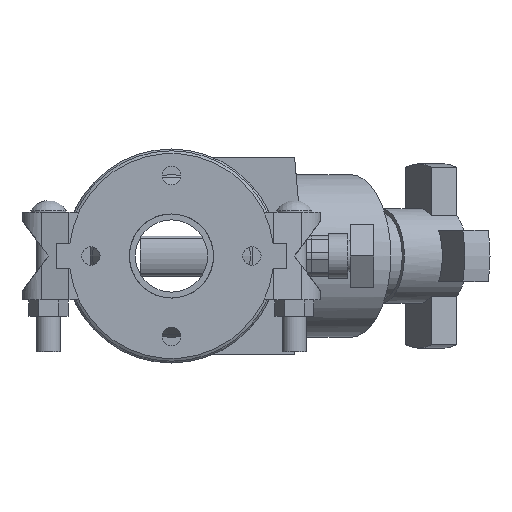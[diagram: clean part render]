
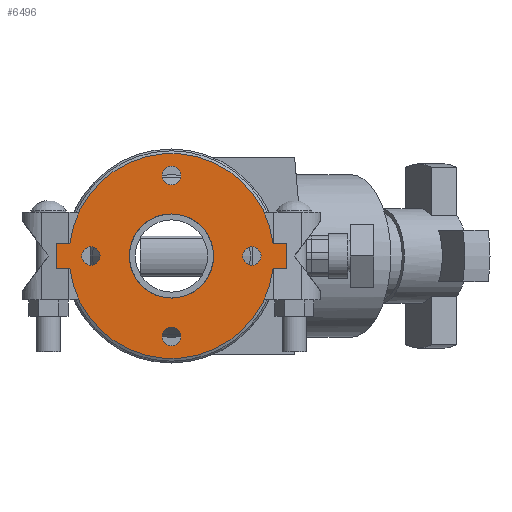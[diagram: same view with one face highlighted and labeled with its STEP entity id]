
A CAD part, front view. The second image highlights one B-rep face of the part: STEP entity #6496.
In plain terms, the highlighted planar face has unit normal (0, -1, 0) as drawn and (0, 0, 1) by its records, which use the part's own axes.
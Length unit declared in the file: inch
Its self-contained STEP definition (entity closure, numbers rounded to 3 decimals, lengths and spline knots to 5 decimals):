
#175=FACE_BOUND('',#821,.T.);
#176=FACE_BOUND('',#822,.T.);
#177=FACE_BOUND('',#823,.T.);
#178=FACE_BOUND('',#824,.T.);
#179=FACE_BOUND('',#825,.T.);
#245=PLANE('',#7065);
#461=FACE_OUTER_BOUND('',#820,.T.);
#820=EDGE_LOOP('',(#4206,#4207,#4208,#4209,#4210,#4211,#4212,#4213));
#821=EDGE_LOOP('',(#4214));
#822=EDGE_LOOP('',(#4215));
#823=EDGE_LOOP('',(#4216));
#824=EDGE_LOOP('',(#4217));
#825=EDGE_LOOP('',(#4218,#4219));
#1239=LINE('',#9908,#1730);
#1240=LINE('',#9911,#1731);
#1243=LINE('',#9916,#1734);
#1244=LINE('',#9919,#1735);
#1246=LINE('',#9922,#1737);
#1247=LINE('',#9924,#1738);
#1730=VECTOR('',#7875,0.3937);
#1731=VECTOR('',#7878,0.3937);
#1734=VECTOR('',#7883,0.3937);
#1735=VECTOR('',#7886,0.3937);
#1737=VECTOR('',#7890,0.3937);
#1738=VECTOR('',#7893,0.3937);
#2205=CIRCLE('',#7036,0.3125);
#2207=CIRCLE('',#7039,0.3125);
#2209=CIRCLE('',#7042,0.3125);
#2211=CIRCLE('',#7045,0.3125);
#2217=CIRCLE('',#7053,3.5);
#2218=CIRCLE('',#7055,1.4375);
#2219=CIRCLE('',#7056,1.4375);
#2220=CIRCLE('',#7058,3.5);
#2576=VERTEX_POINT('',#9843);
#2578=VERTEX_POINT('',#9849);
#2580=VERTEX_POINT('',#9855);
#2582=VERTEX_POINT('',#9861);
#2594=VERTEX_POINT('',#9888);
#2595=VERTEX_POINT('',#9890);
#2596=VERTEX_POINT('',#9894);
#2597=VERTEX_POINT('',#9896);
#2598=VERTEX_POINT('',#9900);
#2599=VERTEX_POINT('',#9902);
#2600=VERTEX_POINT('',#9906);
#2601=VERTEX_POINT('',#9910);
#2602=VERTEX_POINT('',#9914);
#2603=VERTEX_POINT('',#9918);
#3207=EDGE_CURVE('',#2576,#2576,#2205,.T.);
#3210=EDGE_CURVE('',#2578,#2578,#2207,.T.);
#3213=EDGE_CURVE('',#2580,#2580,#2209,.T.);
#3216=EDGE_CURVE('',#2582,#2582,#2211,.T.);
#3231=EDGE_CURVE('',#2594,#2595,#2217,.T.);
#3233=EDGE_CURVE('',#2597,#2596,#2218,.T.);
#3234=EDGE_CURVE('',#2596,#2597,#2219,.T.);
#3236=EDGE_CURVE('',#2599,#2598,#2220,.T.);
#3239=EDGE_CURVE('',#2595,#2600,#1239,.T.);
#3240=EDGE_CURVE('',#2601,#2599,#1240,.T.);
#3243=EDGE_CURVE('',#2598,#2602,#1243,.T.);
#3244=EDGE_CURVE('',#2603,#2594,#1244,.T.);
#3246=EDGE_CURVE('',#2602,#2603,#1246,.T.);
#3247=EDGE_CURVE('',#2600,#2601,#1247,.T.);
#4206=ORIENTED_EDGE('',*,*,#3243,.T.);
#4207=ORIENTED_EDGE('',*,*,#3246,.T.);
#4208=ORIENTED_EDGE('',*,*,#3244,.T.);
#4209=ORIENTED_EDGE('',*,*,#3231,.T.);
#4210=ORIENTED_EDGE('',*,*,#3239,.T.);
#4211=ORIENTED_EDGE('',*,*,#3247,.T.);
#4212=ORIENTED_EDGE('',*,*,#3240,.T.);
#4213=ORIENTED_EDGE('',*,*,#3236,.T.);
#4214=ORIENTED_EDGE('',*,*,#3207,.T.);
#4215=ORIENTED_EDGE('',*,*,#3210,.T.);
#4216=ORIENTED_EDGE('',*,*,#3213,.T.);
#4217=ORIENTED_EDGE('',*,*,#3216,.T.);
#4218=ORIENTED_EDGE('',*,*,#3233,.T.);
#4219=ORIENTED_EDGE('',*,*,#3234,.T.);
#6496=ADVANCED_FACE('',(#461,#175,#176,#177,#178,#179),#245,.T.);
#7036=AXIS2_PLACEMENT_3D('',#9844,#7811,#7812);
#7039=AXIS2_PLACEMENT_3D('',#9850,#7818,#7819);
#7042=AXIS2_PLACEMENT_3D('',#9856,#7825,#7826);
#7045=AXIS2_PLACEMENT_3D('',#9862,#7832,#7833);
#7053=AXIS2_PLACEMENT_3D('',#9892,#7857,#7858);
#7055=AXIS2_PLACEMENT_3D('',#9897,#7862,#7863);
#7056=AXIS2_PLACEMENT_3D('',#9898,#7864,#7865);
#7058=AXIS2_PLACEMENT_3D('',#9903,#7869,#7870);
#7065=AXIS2_PLACEMENT_3D('',#9925,#7894,#7895);
#7811=DIRECTION('center_axis',(0.,0.,-1.));
#7812=DIRECTION('ref_axis',(0.,1.,0.));
#7818=DIRECTION('center_axis',(0.,0.,-1.));
#7819=DIRECTION('ref_axis',(1.,0.,0.));
#7825=DIRECTION('center_axis',(0.,0.,-1.));
#7826=DIRECTION('ref_axis',(0.,-1.,0.));
#7832=DIRECTION('center_axis',(0.,0.,-1.));
#7833=DIRECTION('ref_axis',(-1.,0.,0.));
#7857=DIRECTION('center_axis',(0.,0.,1.));
#7858=DIRECTION('ref_axis',(-1.,0.,0.));
#7862=DIRECTION('center_axis',(0.,0.,-1.));
#7863=DIRECTION('ref_axis',(-1.,0.,0.));
#7864=DIRECTION('center_axis',(0.,0.,-1.));
#7865=DIRECTION('ref_axis',(-1.,0.,0.));
#7869=DIRECTION('center_axis',(0.,0.,1.));
#7870=DIRECTION('ref_axis',(-1.,0.,0.));
#7875=DIRECTION('',(0.,1.,0.));
#7878=DIRECTION('',(0.,-1.,0.));
#7883=DIRECTION('',(0.,-1.,0.));
#7886=DIRECTION('',(0.,1.,0.));
#7890=DIRECTION('',(1.,0.,0.));
#7893=DIRECTION('',(-1.,0.,0.));
#7894=DIRECTION('center_axis',(0.,0.,1.));
#7895=DIRECTION('ref_axis',(1.,0.,0.));
#9843=CARTESIAN_POINT('',(0.,2.4375,0.44));
#9844=CARTESIAN_POINT('Origin',(0.,2.75,0.44));
#9849=CARTESIAN_POINT('',(2.4375,0.,0.44));
#9850=CARTESIAN_POINT('Origin',(2.75,0.,0.44));
#9855=CARTESIAN_POINT('',(0.,-2.4375,0.44));
#9856=CARTESIAN_POINT('Origin',(0.,-2.75,0.44));
#9861=CARTESIAN_POINT('',(-2.4375,0.,0.44));
#9862=CARTESIAN_POINT('Origin',(-2.75,0.,0.44));
#9888=CARTESIAN_POINT('',(0.44,-3.47223,0.44));
#9890=CARTESIAN_POINT('',(0.44,3.47223,0.44));
#9892=CARTESIAN_POINT('Origin',(0.,0.,0.44));
#9894=CARTESIAN_POINT('',(1.4375,0.,0.44));
#9896=CARTESIAN_POINT('',(0.44,1.36851,0.44));
#9897=CARTESIAN_POINT('Origin',(0.,0.,0.44));
#9898=CARTESIAN_POINT('Origin',(0.,0.,0.44));
#9900=CARTESIAN_POINT('',(-0.44,-3.47223,0.44));
#9902=CARTESIAN_POINT('',(-0.44,3.47223,0.44));
#9903=CARTESIAN_POINT('Origin',(0.,0.,0.44));
#9906=CARTESIAN_POINT('',(0.44,3.94,0.44));
#9908=CARTESIAN_POINT('',(0.44,3.94,0.44));
#9910=CARTESIAN_POINT('',(-0.44,3.94,0.44));
#9911=CARTESIAN_POINT('',(-0.44,-3.94,0.44));
#9914=CARTESIAN_POINT('',(-0.44,-3.94,0.44));
#9916=CARTESIAN_POINT('',(-0.44,-3.94,0.44));
#9918=CARTESIAN_POINT('',(0.44,-3.94,0.44));
#9919=CARTESIAN_POINT('',(0.44,3.94,0.44));
#9922=CARTESIAN_POINT('',(0.44,-3.94,0.44));
#9924=CARTESIAN_POINT('',(-0.44,3.94,0.44));
#9925=CARTESIAN_POINT('Origin',(0.,0.,0.44));
